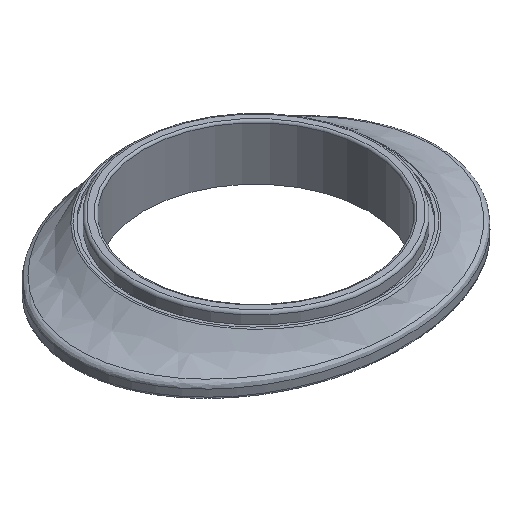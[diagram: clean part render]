
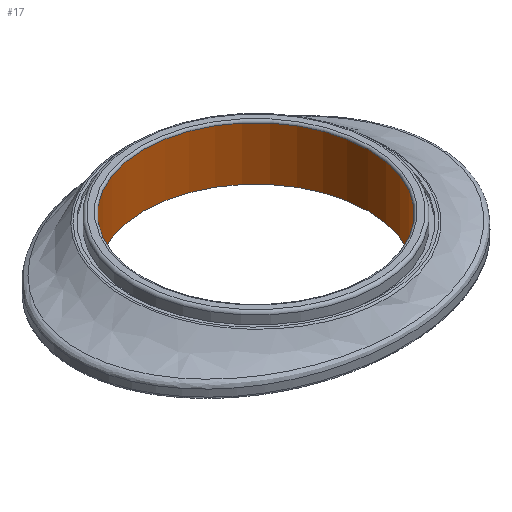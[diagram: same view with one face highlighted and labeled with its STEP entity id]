
A CAD part, isometric view. The second image highlights one B-rep face of the part: STEP entity #17.
In plain terms, the highlighted cylindrical face has radius 16 mm (diameter 32 mm), a full revolution.
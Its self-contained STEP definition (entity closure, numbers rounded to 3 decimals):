
#17 = ADVANCED_FACE('',(#18),#31,.F.);
#18 = FACE_BOUND('',#19,.F.);
#19 = EDGE_LOOP('',(#20,#54,#77,#104));
#20 = ORIENTED_EDGE('',*,*,#21,.T.);
#21 = EDGE_CURVE('',#22,#22,#24,.T.);
#22 = VERTEX_POINT('',#23);
#23 = CARTESIAN_POINT('',(16.,0.,140.6));
#24 = SURFACE_CURVE('',#25,(#30,#42),.PCURVE_S1.);
#25 = CIRCLE('',#26,16.);
#26 = AXIS2_PLACEMENT_3D('',#27,#28,#29);
#27 = CARTESIAN_POINT('',(0.,0.,140.6));
#28 = DIRECTION('',(0.,0.,1.));
#29 = DIRECTION('',(1.,0.,-0.));
#30 = PCURVE('',#31,#36);
#31 = CYLINDRICAL_SURFACE('',#32,16.);
#32 = AXIS2_PLACEMENT_3D('',#33,#34,#35);
#33 = CARTESIAN_POINT('',(0.,0.,122.));
#34 = DIRECTION('',(0.,0.,1.));
#35 = DIRECTION('',(1.,0.,-0.));
#36 = DEFINITIONAL_REPRESENTATION('',(#37),#41);
#37 = LINE('',#38,#39);
#38 = CARTESIAN_POINT('',(0.,18.6));
#39 = VECTOR('',#40,1.);
#40 = DIRECTION('',(1.,0.));
#41 = ( GEOMETRIC_REPRESENTATION_CONTEXT(2) 
PARAMETRIC_REPRESENTATION_CONTEXT() REPRESENTATION_CONTEXT('2D SPACE',''
  ) );
#42 = PCURVE('',#43,#48);
#43 = PLANE('',#44);
#44 = AXIS2_PLACEMENT_3D('',#45,#46,#47);
#45 = CARTESIAN_POINT('',(0.,0.,140.6));
#46 = DIRECTION('',(0.,0.,1.));
#47 = DIRECTION('',(1.,0.,-0.));
#48 = DEFINITIONAL_REPRESENTATION('',(#49),#53);
#49 = CIRCLE('',#50,16.);
#50 = AXIS2_PLACEMENT_2D('',#51,#52);
#51 = CARTESIAN_POINT('',(0.,0.));
#52 = DIRECTION('',(1.,0.));
#53 = ( GEOMETRIC_REPRESENTATION_CONTEXT(2) 
PARAMETRIC_REPRESENTATION_CONTEXT() REPRESENTATION_CONTEXT('2D SPACE',''
  ) );
#54 = ORIENTED_EDGE('',*,*,#55,.F.);
#55 = EDGE_CURVE('',#56,#22,#58,.T.);
#56 = VERTEX_POINT('',#57);
#57 = CARTESIAN_POINT('',(16.,0.,148.2));
#58 = SEAM_CURVE('',#59,(#63,#70),.PCURVE_S1.);
#59 = LINE('',#60,#61);
#60 = CARTESIAN_POINT('',(16.,0.,148.2));
#61 = VECTOR('',#62,1.);
#62 = DIRECTION('',(0.,0.,-1.));
#63 = PCURVE('',#31,#64);
#64 = DEFINITIONAL_REPRESENTATION('',(#65),#69);
#65 = LINE('',#66,#67);
#66 = CARTESIAN_POINT('',(6.283,26.2));
#67 = VECTOR('',#68,1.);
#68 = DIRECTION('',(-0.,-1.));
#69 = ( GEOMETRIC_REPRESENTATION_CONTEXT(2) 
PARAMETRIC_REPRESENTATION_CONTEXT() REPRESENTATION_CONTEXT('2D SPACE',''
  ) );
#70 = PCURVE('',#31,#71);
#71 = DEFINITIONAL_REPRESENTATION('',(#72),#76);
#72 = LINE('',#73,#74);
#73 = CARTESIAN_POINT('',(0.,26.2));
#74 = VECTOR('',#75,1.);
#75 = DIRECTION('',(-0.,-1.));
#76 = ( GEOMETRIC_REPRESENTATION_CONTEXT(2) 
PARAMETRIC_REPRESENTATION_CONTEXT() REPRESENTATION_CONTEXT('2D SPACE',''
  ) );
#77 = ORIENTED_EDGE('',*,*,#78,.F.);
#78 = EDGE_CURVE('',#56,#56,#79,.T.);
#79 = SURFACE_CURVE('',#80,(#85,#92),.PCURVE_S1.);
#80 = CIRCLE('',#81,16.);
#81 = AXIS2_PLACEMENT_3D('',#82,#83,#84);
#82 = CARTESIAN_POINT('',(0.,0.,148.2));
#83 = DIRECTION('',(0.,0.,1.));
#84 = DIRECTION('',(1.,0.,-0.));
#85 = PCURVE('',#31,#86);
#86 = DEFINITIONAL_REPRESENTATION('',(#87),#91);
#87 = LINE('',#88,#89);
#88 = CARTESIAN_POINT('',(0.,26.2));
#89 = VECTOR('',#90,1.);
#90 = DIRECTION('',(1.,0.));
#91 = ( GEOMETRIC_REPRESENTATION_CONTEXT(2) 
PARAMETRIC_REPRESENTATION_CONTEXT() REPRESENTATION_CONTEXT('2D SPACE',''
  ) );
#92 = PCURVE('',#93,#98);
#93 = TOROIDAL_SURFACE('',#94,16.3,0.3);
#94 = AXIS2_PLACEMENT_3D('',#95,#96,#97);
#95 = CARTESIAN_POINT('',(0.,0.,148.2));
#96 = DIRECTION('',(-0.,-0.,-1.));
#97 = DIRECTION('',(1.,0.,0.));
#98 = DEFINITIONAL_REPRESENTATION('',(#99),#103);
#99 = LINE('',#100,#101);
#100 = CARTESIAN_POINT('',(-0.,3.142));
#101 = VECTOR('',#102,1.);
#102 = DIRECTION('',(-1.,0.));
#103 = ( GEOMETRIC_REPRESENTATION_CONTEXT(2) 
PARAMETRIC_REPRESENTATION_CONTEXT() REPRESENTATION_CONTEXT('2D SPACE',''
  ) );
#104 = ORIENTED_EDGE('',*,*,#55,.T.);
